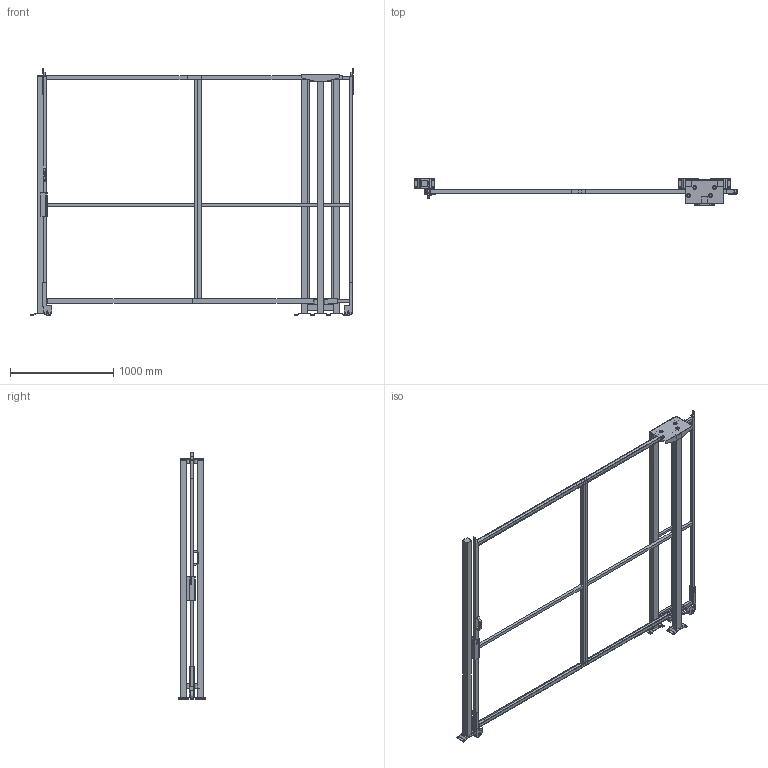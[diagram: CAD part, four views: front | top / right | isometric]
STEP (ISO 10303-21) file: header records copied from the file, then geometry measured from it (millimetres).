
FILE_DESCRIPTION(/* description */ (''),/* implementation_level */ '2;1');
FILE_NAME(/* name */ 'C:\SafeGuarding\ELABORATI\KLADKA_2025-03-20-09-21-55.stp',/* time_stamp */ '2025-03-20T09:21:57+01:00',/* author */ ('admin'),/* organization */ (''),/* preprocessor_version */ 'ST-DEVELOPER v18.1',/* originating_system */ 'AutoCAD Mechanical',/* authorisation */ '');
FILE_SCHEMA (('AUTOMOTIVE_DESIGN { 1 0 10303 214 3 1 1 }'));
Length unit declared in the file: millimetre
Products named in the file (4): Product; R_VFPA.REPE30.15002200; R_VFPA.REPE20.02502200; P_VFMA.V360SDU.2320
Assembly tree (7 placements, depth 2):
  Product
    R_VFPA.REPE30.15002200  x2
    R_VFPA.REPE20.02502200
    P_VFMA.V360SDU.2320  x4
Bounding box: 3126 x 264.11 x 2390.02 mm (x, y, z)
Volume: 54442054.2 mm3; surface area: 7111603.9 mm2
Topology: 60 solids, 71 shells, 549 faces, 1742 edges, 1795 vertices
Faces by surface type: plane 497, cylinder 50, sphere 2
Full cylindrical faces by diameter (mm): 9 x4, 11 x16, 13 x4, 30 x6, 36 x8, 80 x2
Entity records: 14671 total; most frequent: CARTESIAN_POINT 3102, DIRECTION 2235, ORIENTED_EDGE 2058, EDGE_CURVE 1078, LINE 1067, VECTOR 1067, VERTEX_POINT 758, AXIS2_PLACEMENT_3D 584
